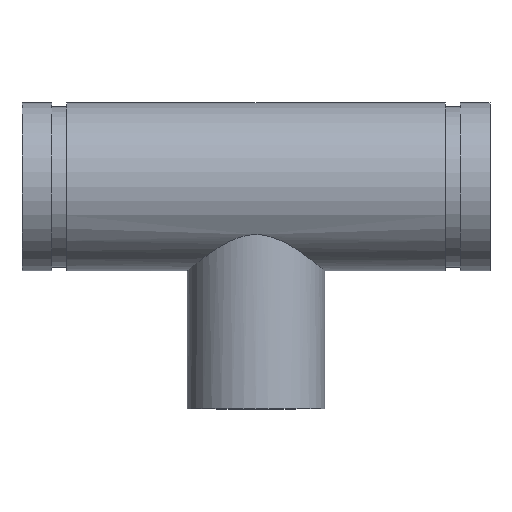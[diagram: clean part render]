
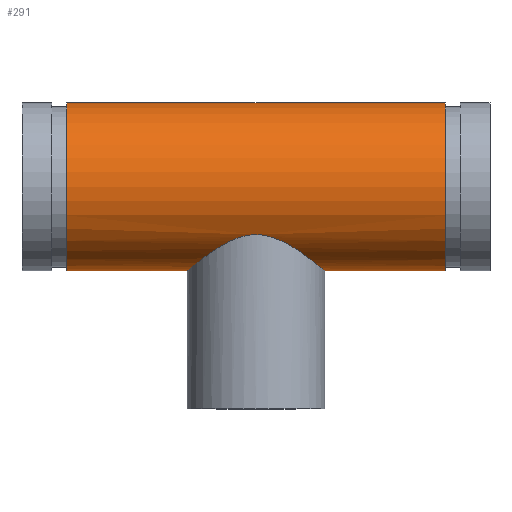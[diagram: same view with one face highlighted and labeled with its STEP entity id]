
A CAD part, top view. The second image highlights one B-rep face of the part: STEP entity #291.
In plain terms, the highlighted cylindrical face has radius 44.45 mm (diameter 88.9 mm), a full revolution.
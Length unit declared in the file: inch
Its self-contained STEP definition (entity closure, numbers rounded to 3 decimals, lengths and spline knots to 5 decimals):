
#45=B_SPLINE_CURVE_WITH_KNOTS('',3,(#511,#512,#513,#514,#515,#516,#517,
#518,#519,#520,#521,#522,#523,#524,#525,#526,#527,#528,#529,#530,#531,#532,
#533,#534,#535,#536,#537,#538,#539,#540,#541,#542,#543,#544,#545,#546,#547,
#548,#549,#550,#551,#552,#553,#554,#555,#556,#557,#558,#559,#560),
 .UNSPECIFIED.,.F.,.F.,(4,2,2,2,2,2,2,2,2,2,2,2,2,2,2,2,2,2,2,2,2,2,2,2,
4),(0.,0.75591,1.51183,2.26774,3.02366,
3.75167,4.47969,5.20771,5.93573,6.66375,
7.39177,8.11979,8.8478,9.60372,10.35963,
11.11555,11.87146,12.62737,13.38329,14.1392,
14.89511,15.62313,16.35115,17.07917,17.80719),
 .UNSPECIFIED.);
#46=B_SPLINE_CURVE_WITH_KNOTS('',3,(#561,#562,#563,#564,#565,#566,#567,
#568,#569,#570,#571,#572,#573,#574,#575,#576,#577,#578),.UNSPECIFIED.,.F.,
 .F.,(4,2,2,2,2,2,2,2,4),(17.80719,18.53521,19.26323,
19.99124,20.71926,21.47518,22.23109,22.987,
23.74292),.UNSPECIFIED.);
#51=LINE('',#508,#59);
#59=VECTOR('',#410,1.75);
#67=CYLINDRICAL_SURFACE('',#338,1.75);
#77=FACE_BOUND('',#108,.T.);
#88=FACE_OUTER_BOUND('',#107,.T.);
#107=EDGE_LOOP('',(#221,#222,#223,#224));
#108=EDGE_LOOP('',(#225,#226));
#121=CIRCLE('',#321,1.75);
#132=CIRCLE('',#337,1.75);
#141=VERTEX_POINT('',#476);
#152=VERTEX_POINT('',#505);
#153=VERTEX_POINT('',#509);
#154=VERTEX_POINT('',#510);
#165=EDGE_CURVE('',#141,#141,#121,.T.);
#178=EDGE_CURVE('',#152,#152,#132,.T.);
#179=EDGE_CURVE('',#152,#141,#51,.T.);
#180=EDGE_CURVE('',#153,#154,#45,.T.);
#181=EDGE_CURVE('',#154,#153,#46,.T.);
#221=ORIENTED_EDGE('',*,*,#178,.T.);
#222=ORIENTED_EDGE('',*,*,#179,.T.);
#223=ORIENTED_EDGE('',*,*,#165,.T.);
#224=ORIENTED_EDGE('',*,*,#179,.F.);
#225=ORIENTED_EDGE('',*,*,#180,.F.);
#226=ORIENTED_EDGE('',*,*,#181,.F.);
#291=ADVANCED_FACE('',(#88,#77),#67,.T.);
#321=AXIS2_PLACEMENT_3D('',#477,#372,#373);
#337=AXIS2_PLACEMENT_3D('',#506,#406,#407);
#338=AXIS2_PLACEMENT_3D('',#507,#408,#409);
#372=DIRECTION('center_axis',(-1.,0.,0.));
#373=DIRECTION('ref_axis',(0.,-1.,0.));
#406=DIRECTION('center_axis',(1.,0.,0.));
#407=DIRECTION('ref_axis',(0.,-1.,0.));
#408=DIRECTION('center_axis',(-1.,0.,0.));
#409=DIRECTION('ref_axis',(0.,-1.,0.));
#410=DIRECTION('',(1.,0.,0.));
#476=CARTESIAN_POINT('',(3.942,1.75,0.));
#477=CARTESIAN_POINT('Origin',(3.942,0.,0.));
#505=CARTESIAN_POINT('',(-3.942,1.75,0.));
#506=CARTESIAN_POINT('Origin',(-3.942,0.,0.));
#507=CARTESIAN_POINT('Origin',(4.88,0.,0.));
#508=CARTESIAN_POINT('',(4.88,1.75,0.));
#509=CARTESIAN_POINT('',(0.,-0.99804,-1.4375));
#510=CARTESIAN_POINT('',(-1.4375,-1.75,0.));
#511=CARTESIAN_POINT('Ctrl Pts',(0.,-0.99804,
-1.4375));
#512=CARTESIAN_POINT('Ctrl Pts',(0.0992,-0.99804,
-1.4375));
#513=CARTESIAN_POINT('Ctrl Pts',(0.19686,-1.01324,-1.42721));
#514=CARTESIAN_POINT('Ctrl Pts',(0.38548,-1.06607,-1.38819));
#515=CARTESIAN_POINT('Ctrl Pts',(0.47653,-1.1034,-1.35947));
#516=CARTESIAN_POINT('Ctrl Pts',(0.64952,-1.1884,-1.28583));
#517=CARTESIAN_POINT('Ctrl Pts',(0.73154,-1.23602,-1.24085));
#518=CARTESIAN_POINT('Ctrl Pts',(0.88372,-1.33175,-1.1375));
#519=CARTESIAN_POINT('Ctrl Pts',(0.95384,-1.37985,-1.07909));
#520=CARTESIAN_POINT('Ctrl Pts',(1.07678,-1.46757,-0.95615));
#521=CARTESIAN_POINT('Ctrl Pts',(1.13459,-1.51072,-0.88745));
#522=CARTESIAN_POINT('Ctrl Pts',(1.2384,-1.59016,-0.73569));
#523=CARTESIAN_POINT('Ctrl Pts',(1.28439,-1.62642,-0.65261));
#524=CARTESIAN_POINT('Ctrl Pts',(1.35959,-1.68644,-0.47652));
#525=CARTESIAN_POINT('Ctrl Pts',(1.38886,-1.71024,-0.3833));
#526=CARTESIAN_POINT('Ctrl Pts',(1.42782,-1.74202,-0.19281));
#527=CARTESIAN_POINT('Ctrl Pts',(1.4375,-1.75,-0.09554));
#528=CARTESIAN_POINT('Ctrl Pts',(1.4375,-1.75,0.09554));
#529=CARTESIAN_POINT('Ctrl Pts',(1.42782,-1.74202,0.19281));
#530=CARTESIAN_POINT('Ctrl Pts',(1.38886,-1.71024,0.3833));
#531=CARTESIAN_POINT('Ctrl Pts',(1.35959,-1.68644,0.47652));
#532=CARTESIAN_POINT('Ctrl Pts',(1.28439,-1.62642,0.65261));
#533=CARTESIAN_POINT('Ctrl Pts',(1.2384,-1.59016,0.73569));
#534=CARTESIAN_POINT('Ctrl Pts',(1.13459,-1.51072,0.88745));
#535=CARTESIAN_POINT('Ctrl Pts',(1.07678,-1.46757,0.95615));
#536=CARTESIAN_POINT('Ctrl Pts',(0.95384,-1.37985,1.07909));
#537=CARTESIAN_POINT('Ctrl Pts',(0.88372,-1.33175,1.1375));
#538=CARTESIAN_POINT('Ctrl Pts',(0.73154,-1.23602,1.24085));
#539=CARTESIAN_POINT('Ctrl Pts',(0.64952,-1.1884,1.28583));
#540=CARTESIAN_POINT('Ctrl Pts',(0.47653,-1.1034,1.35947));
#541=CARTESIAN_POINT('Ctrl Pts',(0.38548,-1.06607,1.38819));
#542=CARTESIAN_POINT('Ctrl Pts',(0.19686,-1.01324,1.42721));
#543=CARTESIAN_POINT('Ctrl Pts',(0.0992,-0.99804,
1.4375));
#544=CARTESIAN_POINT('Ctrl Pts',(-0.0992,-0.99804,
1.4375));
#545=CARTESIAN_POINT('Ctrl Pts',(-0.19686,-1.01324,1.42721));
#546=CARTESIAN_POINT('Ctrl Pts',(-0.38548,-1.06607,1.38819));
#547=CARTESIAN_POINT('Ctrl Pts',(-0.47653,-1.1034,1.35947));
#548=CARTESIAN_POINT('Ctrl Pts',(-0.64952,-1.1884,1.28583));
#549=CARTESIAN_POINT('Ctrl Pts',(-0.73154,-1.23602,1.24085));
#550=CARTESIAN_POINT('Ctrl Pts',(-0.88372,-1.33175,1.1375));
#551=CARTESIAN_POINT('Ctrl Pts',(-0.95384,-1.37985,1.07909));
#552=CARTESIAN_POINT('Ctrl Pts',(-1.07678,-1.46757,0.95615));
#553=CARTESIAN_POINT('Ctrl Pts',(-1.13459,-1.51072,0.88745));
#554=CARTESIAN_POINT('Ctrl Pts',(-1.2384,-1.59016,0.73569));
#555=CARTESIAN_POINT('Ctrl Pts',(-1.28439,-1.62642,0.65261));
#556=CARTESIAN_POINT('Ctrl Pts',(-1.35959,-1.68644,0.47652));
#557=CARTESIAN_POINT('Ctrl Pts',(-1.38886,-1.71024,0.3833));
#558=CARTESIAN_POINT('Ctrl Pts',(-1.42782,-1.74202,0.19281));
#559=CARTESIAN_POINT('Ctrl Pts',(-1.4375,-1.75,0.09554));
#560=CARTESIAN_POINT('Ctrl Pts',(-1.4375,-1.75,0.));
#561=CARTESIAN_POINT('Ctrl Pts',(-1.4375,-1.75,0.));
#562=CARTESIAN_POINT('Ctrl Pts',(-1.4375,-1.75,-0.09554));
#563=CARTESIAN_POINT('Ctrl Pts',(-1.42782,-1.74202,-0.19281));
#564=CARTESIAN_POINT('Ctrl Pts',(-1.38886,-1.71024,-0.3833));
#565=CARTESIAN_POINT('Ctrl Pts',(-1.35959,-1.68644,-0.47652));
#566=CARTESIAN_POINT('Ctrl Pts',(-1.28439,-1.62642,-0.65261));
#567=CARTESIAN_POINT('Ctrl Pts',(-1.2384,-1.59016,-0.73569));
#568=CARTESIAN_POINT('Ctrl Pts',(-1.13459,-1.51072,-0.88745));
#569=CARTESIAN_POINT('Ctrl Pts',(-1.07678,-1.46757,-0.95615));
#570=CARTESIAN_POINT('Ctrl Pts',(-0.95384,-1.37985,-1.07909));
#571=CARTESIAN_POINT('Ctrl Pts',(-0.88372,-1.33175,-1.1375));
#572=CARTESIAN_POINT('Ctrl Pts',(-0.73154,-1.23602,-1.24085));
#573=CARTESIAN_POINT('Ctrl Pts',(-0.64952,-1.1884,-1.28583));
#574=CARTESIAN_POINT('Ctrl Pts',(-0.47653,-1.1034,-1.35947));
#575=CARTESIAN_POINT('Ctrl Pts',(-0.38548,-1.06607,-1.38819));
#576=CARTESIAN_POINT('Ctrl Pts',(-0.19686,-1.01324,-1.42721));
#577=CARTESIAN_POINT('Ctrl Pts',(-0.0992,-0.99804,
-1.4375));
#578=CARTESIAN_POINT('Ctrl Pts',(0.,-0.99804,
-1.4375));
